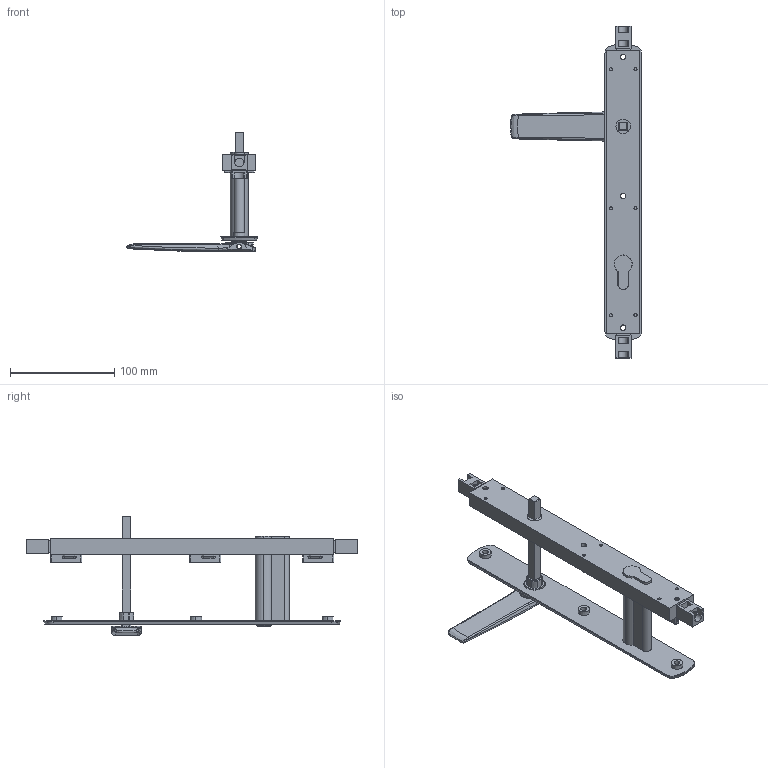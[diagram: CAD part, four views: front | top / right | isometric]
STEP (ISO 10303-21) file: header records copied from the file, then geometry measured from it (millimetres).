
FILE_DESCRIPTION (( 'STEP AP214' ), '1' );
FILE_NAME ('TPL-H-EU-603-B 30Oct2024.STEP', '2024-10-30T03:33:11', ( '' ), ( '' ), 'SwSTEP 2.0', 'SolidWorks 2023', '' );
FILE_SCHEMA (( 'AUTOMOTIVE_DESIGN' ));
Length unit declared in the file: millimetre
Products named in the file (12): Copy of TPLGen2 lock body keyed^Copy of TPLGen2 lock body keyed assembly_TPL-H-EU-103 30Oct2024_Left; Copy of LKC-586 Spindle square 8mm with M4 hole^Copy of TPGen2 handle keyed internal zinc - simplified_TPL-H-EU-103 30Oct2024_100mm; Copy of TPGen2 handle keyed internal zinc - simplified^TPL-H-EU-103 30Oct2024_Right; Copy of LKC-585 Rotator body zinc^Copy of TPGen2 handle keyed internal zinc - simplified_TPL-H-EU-103 30Oct2024; Copy of TPLGen2 push rod - simplified^Copy of TPLGen2 lock body keyed assembly_TPL-H-EU-103 30Oct2024_Female thread M10; Copy of TPLGen2 lock body keyed assembly^TPL-H-EU-103 30Oct2024_Bolts retracted - left; Copy of TPL-H-APC-515 04Oct2024^TPL-H-EU-103 30Oct2024; TPL-H-EU-603-B 30Oct2024; Copy of LKC-512 Escutcheon plate keyed internal 285mm long zinc - simplified^Copy of TPGen2 handle keyed internal zinc - simplified_TPL-H-EU-103 30Oct2024; Copy of LKC-505 Swing handle zinc - simplified^Copy of TPGen2 handle keyed internal zinc - simplified_TPL-H-EU-103 30Oct2024; Copy of LKC-584 Pivot body zinc - simplified^Copy of TPGen2 handle keyed internal zinc - simplified_TPL-H-EU-103 30Oct2024; Copy of TPL-H-EU-005 29Oct2024^TPL-H-EU-103 30Oct2024_TPL-064-75 Left
Assembly tree (14 placements, depth 3):
  TPL-H-EU-603-B 30Oct2024
    Copy of TPLGen2 lock body keyed assembly^TPL-H-EU-103 30Oct2024_Bolts retracted - left
      Copy of TPLGen2 lock body keyed^Copy of TPLGen2 lock body keyed assembly_TPL-H-EU-103 30Oct2024_Left
      Copy of TPLGen2 push rod - simplified^Copy of TPLGen2 lock body keyed assembly_TPL-H-EU-103 30Oct2024_Female thread M10  x2
    Copy of TPGen2 handle keyed internal zinc - simplified^TPL-H-EU-103 30Oct2024_Right
      Copy of LKC-512 Escutcheon plate keyed internal 285mm long zinc - simplified^Copy of TPGen2 handle keyed internal zinc - simplified_TPL-H-EU-103 30Oct2024
      Copy of LKC-505 Swing handle zinc - simplified^Copy of TPGen2 handle keyed internal zinc - simplified_TPL-H-EU-103 30Oct2024
      Copy of LKC-585 Rotator body zinc^Copy of TPGen2 handle keyed internal zinc - simplified_TPL-H-EU-103 30Oct2024
      Copy of LKC-586 Spindle square 8mm with M4 hole^Copy of TPGen2 handle keyed internal zinc - simplified_TPL-H-EU-103 30Oct2024_100mm
      Copy of LKC-584 Pivot body zinc - simplified^Copy of TPGen2 handle keyed internal zinc - simplified_TPL-H-EU-103 30Oct2024
    Copy of TPL-H-APC-515 04Oct2024^TPL-H-EU-103 30Oct2024  x3
    Copy of TPL-H-EU-005 29Oct2024^TPL-H-EU-103 30Oct2024_TPL-064-75 Left
Bounding box: 125.62 x 318.6 x 114.46 mm (x, y, z)
Volume: 236003.8 mm3; surface area: 92511.8 mm2
Topology: 12 solids, 12 shells, 1120 faces, 2724 edges, 1650 vertices
Faces by surface type: cylinder 350, plane 341, bspline 224, torus 109, cone 67, sphere 29
Entity records: 29800 total; most frequent: CARTESIAN_POINT 12435, ORIENTED_EDGE 3740, DIRECTION 3349, EDGE_CURVE 1870, AXIS2_PLACEMENT_3D 1322, VERTEX_POINT 1134, EDGE_LOOP 868, FACE_OUTER_BOUND 783
